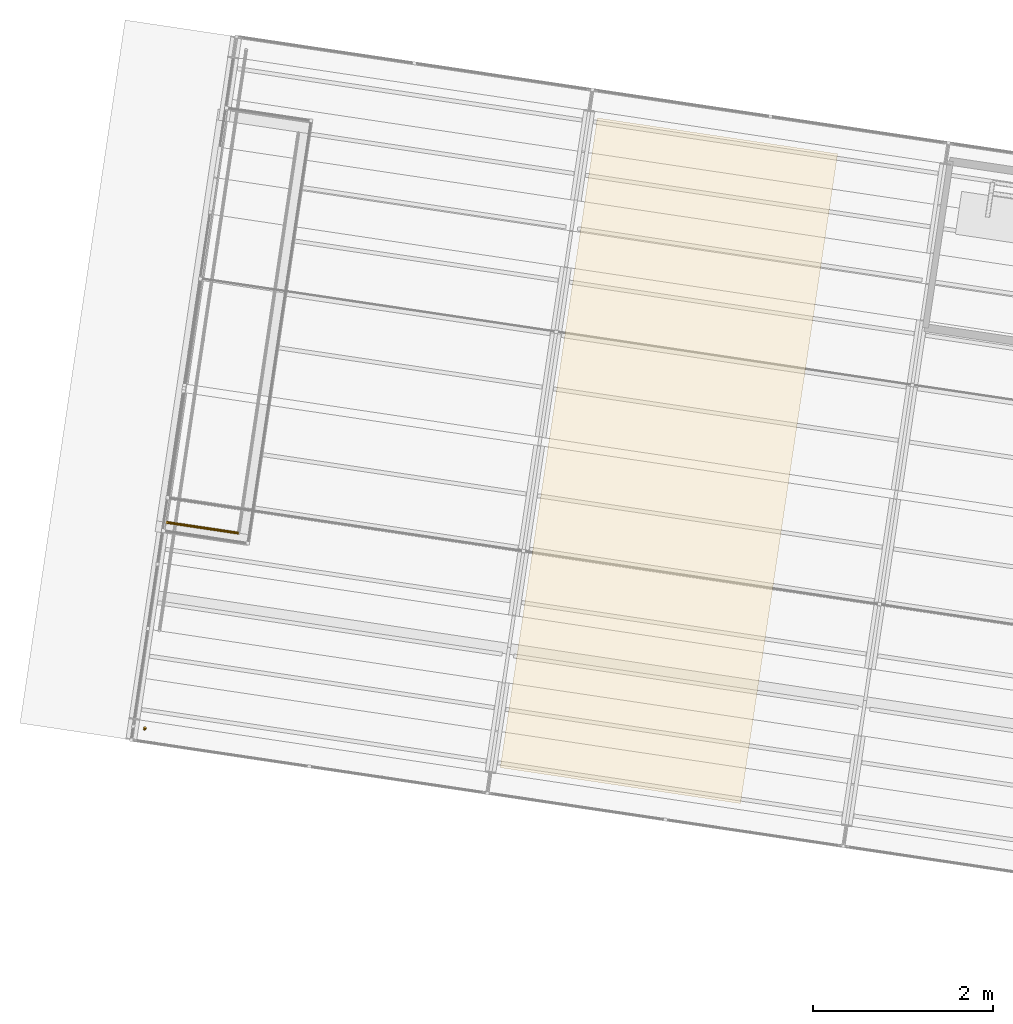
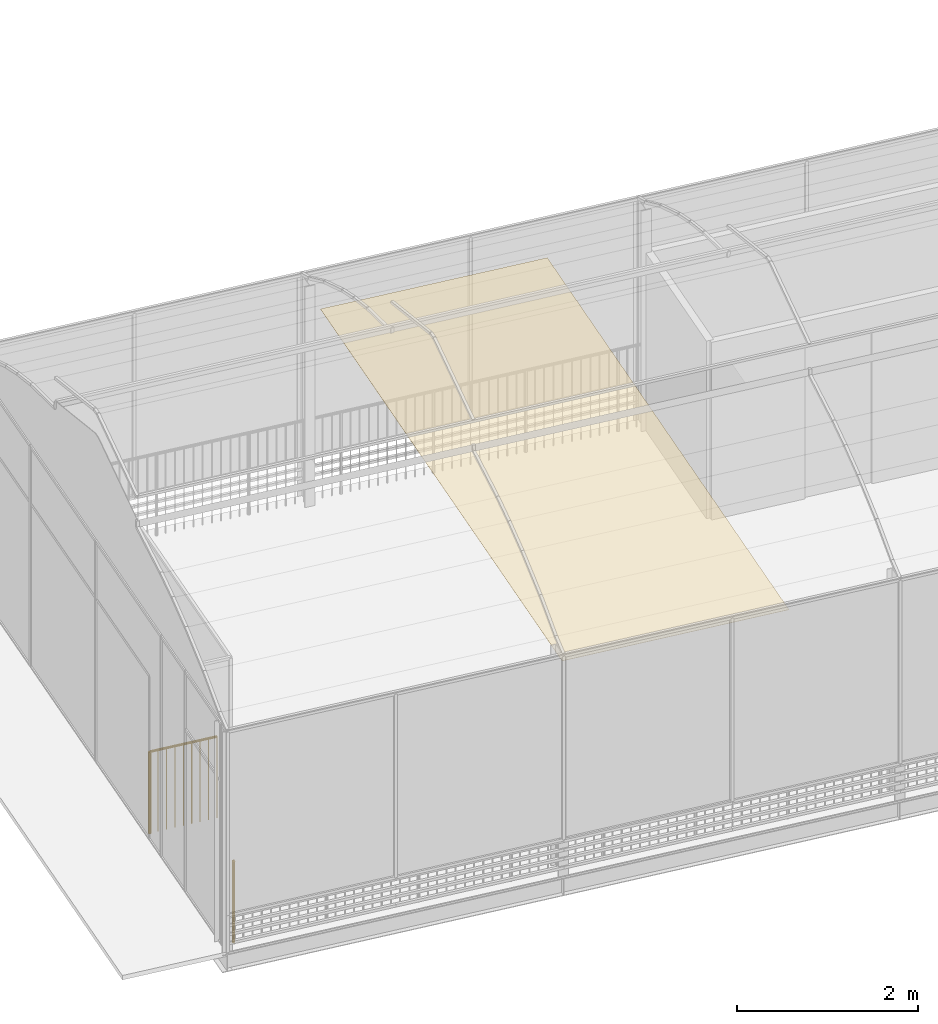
# One storey, part 30 of 34: 2 railings, 1 covering.
"""IFC4 building model written with IfcOpenShell, lengths in metres."""

from ifc_helpers import new_model, si_unit, direction, frame, origin_with_axes, place, context, subcontext, project, spatial, polyline, circle, outline, extrude, material, element, save


model = new_model("IFC4")

# Units and contexts
model_context = context("Model", 3, precision=1e-05, world=origin_with_axes(), true_north=direction((0.0, 1.0)))
body_context = subcontext(model_context, "Body", "Model", "MODEL_VIEW")
ifc_project = project(units=[si_unit("VOLUMEUNIT", "CUBIC_METRE"), si_unit("LENGTHUNIT", "METRE"), si_unit("AREAUNIT", "SQUARE_METRE")], contexts=[model_context])

# Site, building, storey
site_placement = place(None, origin_with_axes())
site = spatial("IfcSite", under=ifc_project, at=site_placement, Name="Lares · Rua das Mercês · artigo 4771")
building_placement = place(site_placement, frame((12.0, 10.2, 13.9), z_axis=(0.0, 0.0, 1.0), x_axis=(0.989015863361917, -0.147809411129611, 0.0)))
building = spatial("IfcBuilding", under=site, at=building_placement, Name="Casa Sobreposta")
storey_placement = place(building_placement, frame((0.0, 0.0, 3.24), z_axis=(0.0, 0.0, 1.0), x_axis=(1.0, 0.0, 0.0)))
storey = spatial("IfcBuildingStorey", under=building, at=storey_placement, Name="01 · Jardim de inverno", Elevation=17.14)

# Railing
ifc_material_1 = material(Name="Aço pintado / Stahl lackiert", Category="steel")
railing_1_placement = place(storey_placement, frame((0.0, 0.0, -3.24), z_axis=(0.0, 0.0, 1.0), x_axis=(1.0, 0.0, 0.0)))
element("IfcRailing", 1, at=railing_1_placement, inside=storey, material=ifc_material_1, Name="Guarda perimetral da estufa", PredefinedType="GUARDRAIL", context=body_context, shape_type="SweptSolid", body=[
    extrude(circle(Radius=0.015), frame((0.13, -1.35, 4.34), z_axis=(0.0, -1.0, 0.0), x_axis=(-1.0, 0.0, 0.0)), (0.0, 0.0, 1.0), 0.02),
    extrude(circle(Radius=0.0175), frame((0.13, -1.35, 3.24), z_axis=(0.0, 0.0, 1.0), x_axis=(1.0, 0.0, 0.0)), (0.0, 0.0, 1.0), 1.1),
    extrude(circle(Radius=0.006), frame((0.13, -1.37, 3.24), z_axis=(0.0, 0.0, 1.0), x_axis=(1.0, 0.0, 0.0)), (0.0, 0.0, 1.0), 1.1),
])

# Covering
ifc_material_2 = material(Name="Tecido de sombreamento — hipótese", Category="fabric")
covering_placement = place(storey_placement, frame((0.0, 0.0, 2.68), z_axis=(0.0, 0.0, 1.0), x_axis=(1.0, 0.0, 0.0)))
element("IfcCovering", 2, at=covering_placement, inside=storey, material=ifc_material_2, Name="Cortina interior · 75%", ObjectType="Cortina interior · 75%", PredefinedType="USERDEFINED", context=body_context, shape_type="SweptSolid", body=[
    extrude(outline(polyline([(6.8, -1.2), (6.8, 6.1), (4.1, 6.1), (4.1, -1.2), (6.8, -1.2)])), origin_with_axes(), (0.0, 0.0, 1.0), 0.004),
])

# Railing
railing_2_placement = place(storey_placement, frame((0.0, 0.0, -3.24), z_axis=(0.0, 0.0, 1.0), x_axis=(1.0, 0.0, 0.0)))
element("IfcRailing", 3, at=railing_2_placement, inside=storey, material=ifc_material_1, Name="Guarda do vazio", PredefinedType="GUARDRAIL", context=body_context, shape_type="SweptSolid", body=[
    extrude(circle(Radius=0.015), frame((0.04, 0.9475, 4.34), z_axis=(1.0, 0.0, 0.0), x_axis=(0.0, -1.0, 0.0)), (0.0, 0.0, 1.0), 0.8),
    extrude(circle(Radius=0.0175), frame((0.04, 0.9475, 3.24), z_axis=(0.0, 0.0, 1.0), x_axis=(1.0, 0.0, 0.0)), (0.0, 0.0, 1.0), 1.1),
    extrude(circle(Radius=0.006), frame((0.14, 0.9475, 3.24), z_axis=(0.0, 0.0, 1.0), x_axis=(1.0, 0.0, 0.0)), (0.0, 0.0, 1.0), 1.1),
    extrude(circle(Radius=0.006), frame((0.24, 0.9475, 3.24), z_axis=(0.0, 0.0, 1.0), x_axis=(1.0, 0.0, 0.0)), (0.0, 0.0, 1.0), 1.1),
    extrude(circle(Radius=0.006), frame((0.34, 0.9475, 3.24), z_axis=(0.0, 0.0, 1.0), x_axis=(1.0, 0.0, 0.0)), (0.0, 0.0, 1.0), 1.1),
    extrude(circle(Radius=0.006), frame((0.44, 0.9475, 3.24), z_axis=(0.0, 0.0, 1.0), x_axis=(1.0, 0.0, 0.0)), (0.0, 0.0, 1.0), 1.1),
    extrude(circle(Radius=0.006), frame((0.54, 0.9475, 3.24), z_axis=(0.0, 0.0, 1.0), x_axis=(1.0, 0.0, 0.0)), (0.0, 0.0, 1.0), 1.1),
    extrude(circle(Radius=0.006), frame((0.64, 0.9475, 3.24), z_axis=(0.0, 0.0, 1.0), x_axis=(1.0, 0.0, 0.0)), (0.0, 0.0, 1.0), 1.1),
    extrude(circle(Radius=0.006), frame((0.74, 0.9475, 3.24), z_axis=(0.0, 0.0, 1.0), x_axis=(1.0, 0.0, 0.0)), (0.0, 0.0, 1.0), 1.1),
    extrude(circle(Radius=0.006), frame((0.84, 0.9475, 3.24), z_axis=(0.0, 0.0, 1.0), x_axis=(1.0, 0.0, 0.0)), (0.0, 0.0, 1.0), 1.1),
])

save(model, "model.ifc")
